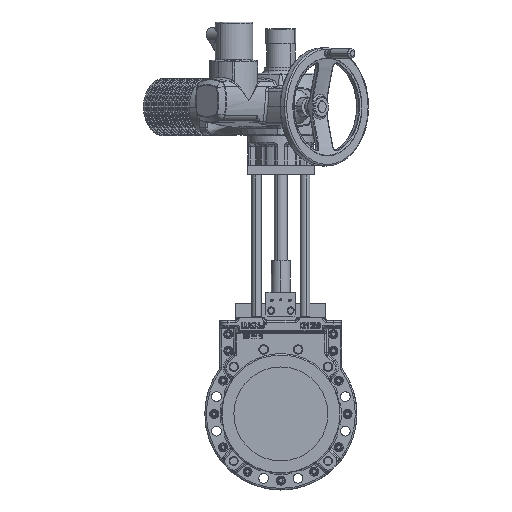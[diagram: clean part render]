
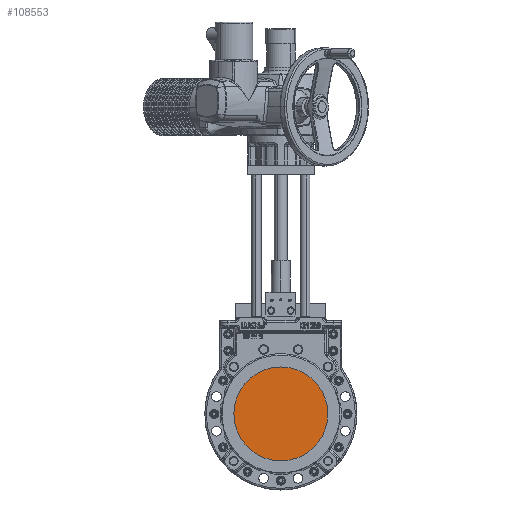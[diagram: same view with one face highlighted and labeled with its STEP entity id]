
A CAD part, top view. The second image highlights one B-rep face of the part: STEP entity #108553.
In plain terms, the highlighted planar face has unit normal (0, 0, 1).
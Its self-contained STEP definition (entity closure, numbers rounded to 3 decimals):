
#1460 = CIRCLE ( 'NONE', #144029, 125. ) ;
#9189 = ORIENTED_EDGE ( 'NONE', *, *, #106722, .T. ) ;
#14380 = CARTESIAN_POINT ( 'NONE',  ( 0., 0., -0.25 ) ) ;
#15344 = DIRECTION ( 'NONE',  ( 0., 0., 1. ) ) ;
#26780 = DIRECTION ( 'NONE',  ( 1., 0., 0. ) ) ;
#28066 = ORIENTED_EDGE ( 'NONE', *, *, #134897, .T. ) ;
#30931 = AXIS2_PLACEMENT_3D ( 'NONE', #89190, #15344, #101517 ) ;
#32082 = DIRECTION ( 'NONE',  ( 1., 0., 0. ) ) ;
#48374 = FACE_OUTER_BOUND ( 'NONE', #104343, .T. ) ;
#49394 = CIRCLE ( 'NONE', #30931, 125. ) ;
#50949 = CARTESIAN_POINT ( 'NONE',  ( -125., 0., -0.25 ) ) ;
#56591 = CARTESIAN_POINT ( 'NONE',  ( 125., 0., -0.25 ) ) ;
#68224 = CARTESIAN_POINT ( 'NONE',  ( 0., 0., -0.25 ) ) ;
#83079 = VERTEX_POINT ( 'NONE', #56591 ) ;
#89190 = CARTESIAN_POINT ( 'NONE',  ( 0., 0., -0.25 ) ) ;
#93529 = PLANE ( 'NONE',  #136767 ) ;
#100547 = DIRECTION ( 'NONE',  ( 0., 0., 1. ) ) ;
#101517 = DIRECTION ( 'NONE',  ( 1., 0., 0. ) ) ;
#104343 = EDGE_LOOP ( 'NONE', ( #9189, #28066 ) ) ;
#105898 = DIRECTION ( 'NONE',  ( 0., 0., 1. ) ) ;
#106722 = EDGE_CURVE ( 'NONE', #112115, #83079, #49394, .T. ) ;
#108553 = ADVANCED_FACE ( 'NONE', ( #48374 ), #93529, .T. ) ;
#112115 = VERTEX_POINT ( 'NONE', #50949 ) ;
#134897 = EDGE_CURVE ( 'NONE', #83079, #112115, #1460, .T. ) ;
#136767 = AXIS2_PLACEMENT_3D ( 'NONE', #68224, #105898, #32082 ) ;
#144029 = AXIS2_PLACEMENT_3D ( 'NONE', #14380, #100547, #26780 ) ;
